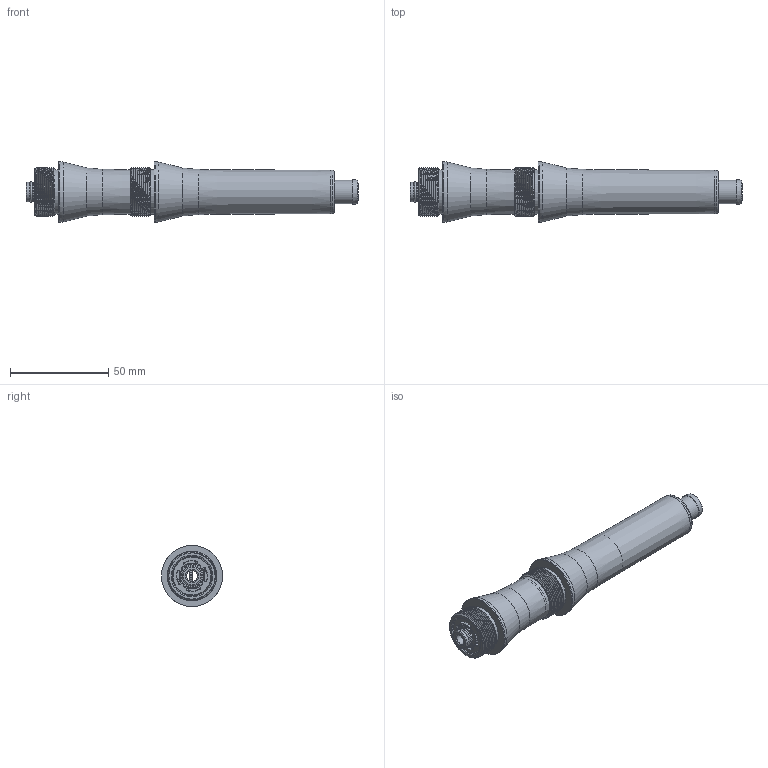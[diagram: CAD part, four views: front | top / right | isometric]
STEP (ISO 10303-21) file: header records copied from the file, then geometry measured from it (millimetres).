
FILE_DESCRIPTION( ( 'Unknown' ), '1' );
FILE_NAME( 'C:/Documents and Settings/Owner/官帕 拳搁/VC253FS.stp', 'Unknown', ( 'Unknown' ), ( 'Unknown' ), 'PSStep 10.0', 'Unknown', ' ' );
FILE_SCHEMA( ( 'AUTOMOTIVE_DESIGN { 1 0 10303 214 1 1 1 1 }' ) );
Length unit declared in the file: millimetre
Products named in the file (10): Assem1; VC253; Stop ring; Filter Housing(253)-A(ﾇﾊﾅﾍﾜ; Silencer Cover-253(Åõã; Sponge; Silencer Cover End Cap-253(癱
Bounding box: 168.6 x 31 x 31 mm (x, y, z)
Volume: 79837.6 mm3; surface area: 82440.1 mm2
Topology: 18 solids, 18 shells, 816 faces, 1860 edges, 1136 vertices
Faces by surface type: plane 346, cylinder 228, torus 162, bspline 40, cone 32, sphere 8
Full cylindrical faces by diameter (mm): 5.509 x2, 8.2 x2, 8.4 x2, 8.423 x2, 9 x8, 9.6 x2, 9.609 x2, 9.9 x4, 10.4 x2, 11.52 x2, 12 x32, 12.1 x2, 13 x2, 13.2 x2, 13.408 x2, 13.8 x2, 14 x2, 15.705 x2, 15.905 x2, 16 x4, 18 x2, 18.4 x2, 19 x8, 19.4 x2, 22 x2, 22.5 x2, 31 x2
Entity records: 16295 total; most frequent: CARTESIAN_POINT 4108, DIRECTION 1991, ORIENTED_EDGE 1582, AXIS2_PLACEMENT_3D 825, EDGE_CURVE 791, EDGE_LOOP 592, VERTEX_POINT 547, FACE_OUTER_BOUND 490
